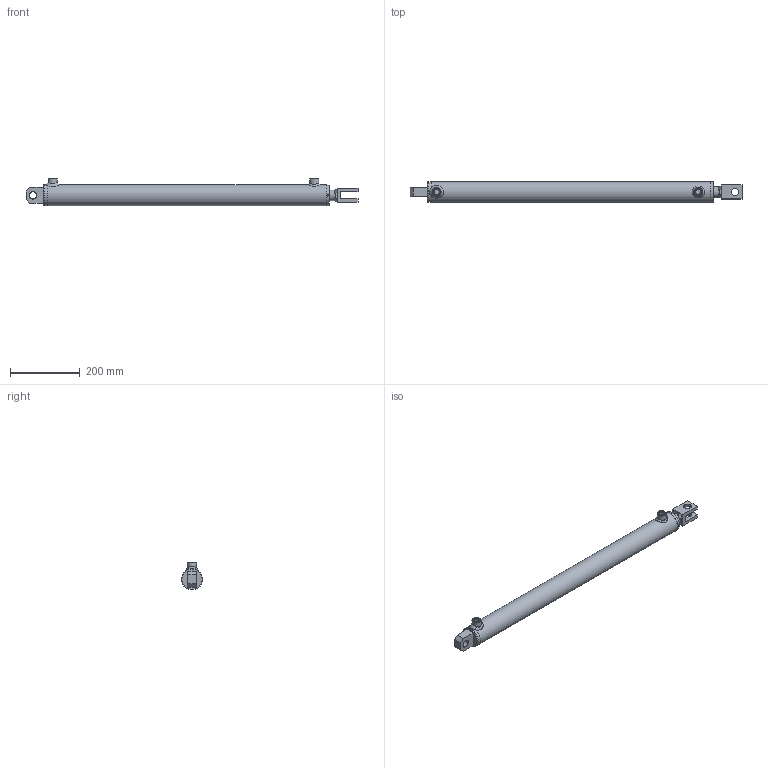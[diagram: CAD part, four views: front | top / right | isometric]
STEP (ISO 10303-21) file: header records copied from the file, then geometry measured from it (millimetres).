
FILE_DESCRIPTION( ( 'Unknown' ), '1' );
FILE_NAME( 'E:/LIBRERIA_3d/CILINDRI/HM5/HM52300700.stp', 'Unknown', ( 'Unknown' ), ( 'Unknown' ), 'PSStep 17.0.49', 'Unknown', ' ' );
FILE_SCHEMA( ( 'AUTOMOTIVE_DESIGN { 1 0 10303 214 1 1 1 1 }' ) );
Length unit declared in the file: millimetre
Products named in the file (25): HM02300700; Assem1; COF2000000; Saldatura d'angolo 2-oa0; CFS0000020; CSCS004010
Assembly tree (17 placements, depth 3):
  Assem1
    COF2000000
    CFS0000020
    CSCS004010  x2
    HM02300700
      HM02300700
      HM02300700
      HM02300700
      HM02300700
      HM02300700
      HM02300700
      HM02300700
      HM02300700
      HM02300700
      HM02300700
      HM02300700
      HM02300700
  Saldatura d'angolo 2-oa0
  Saldatura d'angolo 2-oa0
  Saldatura d'angolo 2-oa0
  Saldatura d'angolo 2-oa0
Bounding box: 950 x 60 x 79 mm (x, y, z)
Volume: 97364.7 mm3; surface area: 272936.2 mm2
Topology: 12 solids, 66 shells, 145 faces, 367 edges, 261 vertices
Faces by surface type: plane 62, cylinder 40, cone 33, torus 5, bspline 5
Full cylindrical faces by diameter (mm): 4 x2, 4.25 x3, 5 x2, 14.95 x2, 16 x2, 20.25 x3, 22 x2, 26 x2, 30 x2, 33 x1, 38.6 x1, 59 x1, 60 x3
Entity records: 6030 total; most frequent: CARTESIAN_POINT 2130, DIRECTION 706, ORIENTED_EDGE 424, AXIS2_PLACEMENT_3D 301, EDGE_CURVE 268, VERTEX_POINT 229, EDGE_LOOP 207, CIRCLE 142
